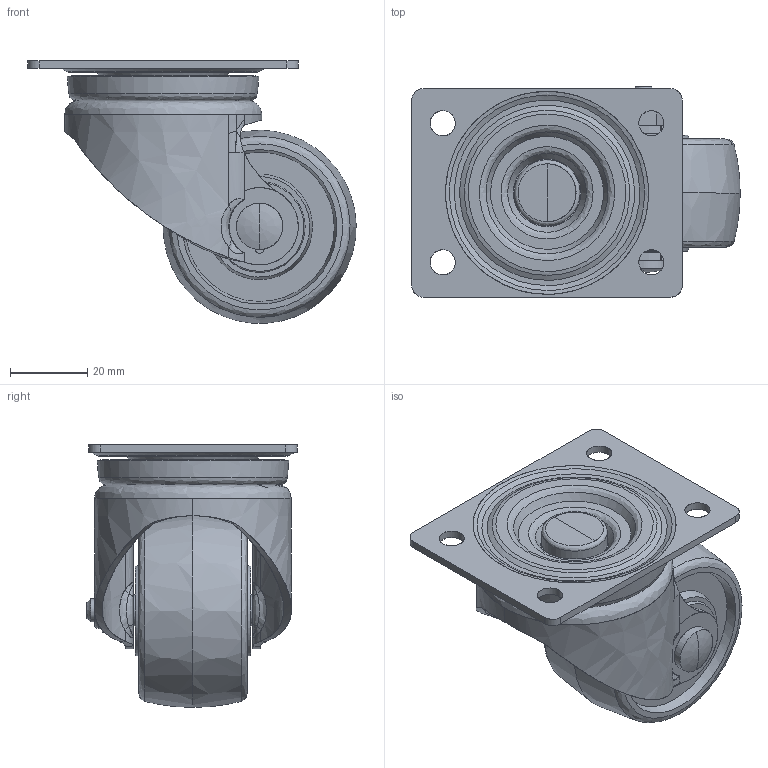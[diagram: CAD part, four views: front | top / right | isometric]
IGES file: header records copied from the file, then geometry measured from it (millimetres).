
Start section: JAMA-IS VERSION  1.0
Global section: file name: C:\CAM-TOOL data\ToolsFile\INOAC車輪\10月\FP50GNWJ-All.igs; native system: CAM-TOOL; preprocessor: C3out Version 11.1.1.50212 (2015/02/12); author: NONE; organization: NONE; date: 231025.160051; units: millimetre
Bounding box: 84.99 x 54.5 x 67.94 mm (x, y, z)
Surface area: 42339.1 mm2 (no closed solid volume)
Topology: 0 solids, 0 shells, 272 faces, 2519 edges, 2802 vertices
Faces by surface type: bspline 272
